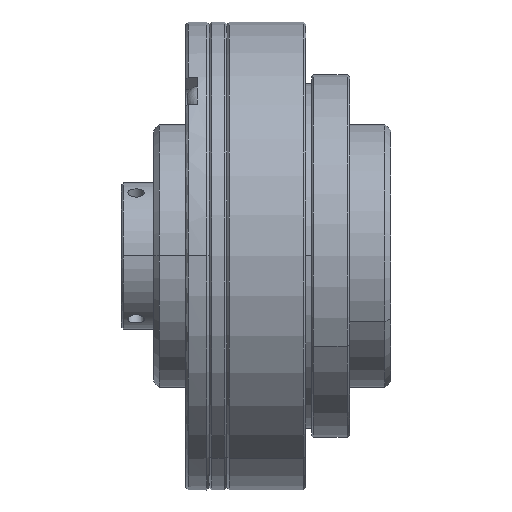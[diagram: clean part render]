
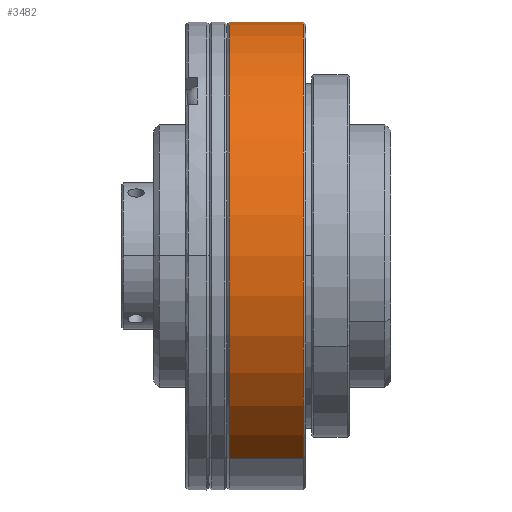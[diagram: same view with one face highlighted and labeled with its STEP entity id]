
A CAD part, top view. The second image highlights one B-rep face of the part: STEP entity #3482.
In plain terms, the highlighted cylindrical face has radius 40 mm (diameter 80 mm), a partial arc.
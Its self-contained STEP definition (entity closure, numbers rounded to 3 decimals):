
#297 = CARTESIAN_POINT ( 'NONE',  ( 9.499, 0., -40. ) ) ;
#438 = DIRECTION ( 'NONE',  ( 0., 0., 1. ) ) ;
#1881 = DIRECTION ( 'NONE',  ( 0., 0., 1. ) ) ;
#2250 = CIRCLE ( 'NONE', #14305, 40. ) ;
#3482 = ADVANCED_FACE ( 'NONE', ( #29006 ), #4971, .T. ) ;
#4178 = CARTESIAN_POINT ( 'NONE',  ( 0., 0., 0. ) ) ;
#4971 = CYLINDRICAL_SURFACE ( 'NONE', #25358, 40. ) ;
#6368 = VERTEX_POINT ( 'NONE', #13851 ) ;
#6925 = VERTEX_POINT ( 'NONE', #24791 ) ;
#7096 = DIRECTION ( 'NONE',  ( -1., 0., 0. ) ) ;
#7823 = EDGE_LOOP ( 'NONE', ( #29151, #19339, #19609, #10133 ) ) ;
#9384 = CARTESIAN_POINT ( 'NONE',  ( 0., 0., -40. ) ) ;
#10133 = ORIENTED_EDGE ( 'NONE', *, *, #27527, .F. ) ;
#11990 = CARTESIAN_POINT ( 'NONE',  ( 22.199, 0., 0. ) ) ;
#12059 = VECTOR ( 'NONE', #13859, 1000. ) ;
#12755 = LINE ( 'NONE', #25133, #12059 ) ;
#13657 = EDGE_CURVE ( 'NONE', #6925, #14048, #17806, .T. ) ;
#13851 = CARTESIAN_POINT ( 'NONE',  ( 9.499, 0., 40. ) ) ;
#13859 = DIRECTION ( 'NONE',  ( -1., 0., 0. ) ) ;
#14041 = DIRECTION ( 'NONE',  ( -1., 0., 0. ) ) ;
#14048 = VERTEX_POINT ( 'NONE', #297 ) ;
#14255 = DIRECTION ( 'NONE',  ( 0., 0., 1. ) ) ;
#14305 = AXIS2_PLACEMENT_3D ( 'NONE', #27605, #14041, #438 ) ;
#15548 = CIRCLE ( 'NONE', #16762, 40. ) ;
#16762 = AXIS2_PLACEMENT_3D ( 'NONE', #11990, #27800, #14255 ) ;
#17806 = LINE ( 'NONE', #9384, #29117 ) ;
#19339 = ORIENTED_EDGE ( 'NONE', *, *, #13657, .T. ) ;
#19609 = ORIENTED_EDGE ( 'NONE', *, *, #20046, .F. ) ;
#20046 = EDGE_CURVE ( 'NONE', #6368, #14048, #2250, .T. ) ;
#22314 = DIRECTION ( 'NONE',  ( -1., 0., 0. ) ) ;
#23937 = VERTEX_POINT ( 'NONE', #24097 ) ;
#24097 = CARTESIAN_POINT ( 'NONE',  ( 22.199, 0., 40. ) ) ;
#24791 = CARTESIAN_POINT ( 'NONE',  ( 22.199, 0., -40. ) ) ;
#25133 = CARTESIAN_POINT ( 'NONE',  ( 0., 0., 40. ) ) ;
#25358 = AXIS2_PLACEMENT_3D ( 'NONE', #4178, #22314, #1881 ) ;
#27527 = EDGE_CURVE ( 'NONE', #23937, #6368, #12755, .T. ) ;
#27605 = CARTESIAN_POINT ( 'NONE',  ( 9.499, 0., 0. ) ) ;
#27800 = DIRECTION ( 'NONE',  ( -1., 0., 0. ) ) ;
#29006 = FACE_OUTER_BOUND ( 'NONE', #7823, .T. ) ;
#29117 = VECTOR ( 'NONE', #7096, 1000. ) ;
#29134 = EDGE_CURVE ( 'NONE', #23937, #6925, #15548, .T. ) ;
#29151 = ORIENTED_EDGE ( 'NONE', *, *, #29134, .T. ) ;
